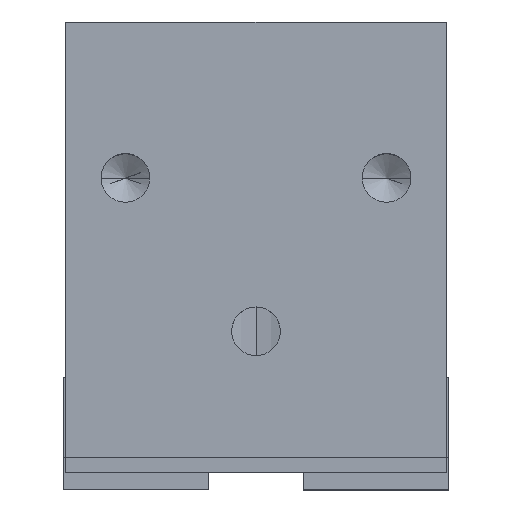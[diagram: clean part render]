
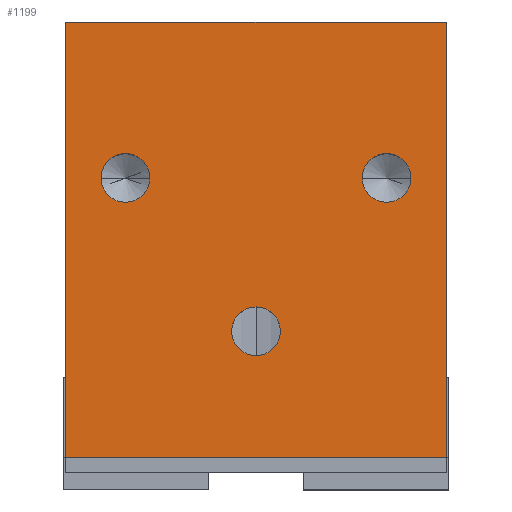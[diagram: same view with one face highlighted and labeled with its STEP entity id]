
A CAD part, top view. The second image highlights one B-rep face of the part: STEP entity #1199.
In plain terms, the highlighted planar face has unit normal (0, 0, 1).
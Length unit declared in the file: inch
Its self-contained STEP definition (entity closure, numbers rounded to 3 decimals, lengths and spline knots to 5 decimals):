
#35 = CARTESIAN_POINT ( 'NONE',  ( 0.31321, 0.125, 0.315 ) ) ;
#61 = ORIENTED_EDGE ( 'NONE', *, *, #959, .F. ) ;
#78 = EDGE_CURVE ( 'NONE', #418, #3062, #2052, .T. ) ;
#79 = DIRECTION ( 'NONE',  ( 0., 0., 1. ) ) ;
#118 = DIRECTION ( 'NONE',  ( 1., 0., 0. ) ) ;
#139 = VECTOR ( 'NONE', #2358, 39.37008 ) ;
#171 = CARTESIAN_POINT ( 'NONE',  ( -0.384, -0.44, 0.315 ) ) ;
#232 = EDGE_CURVE ( 'NONE', #2453, #2870, #2354, .T. ) ;
#301 = CARTESIAN_POINT ( 'NONE',  ( -0.21479, 0.125, 0.315 ) ) ;
#418 = VERTEX_POINT ( 'NONE', #35 ) ;
#445 = AXIS2_PLACEMENT_3D ( 'NONE', #905, #1126, #118 ) ;
#496 = DIRECTION ( 'NONE',  ( 1., 0., 0. ) ) ;
#521 = VECTOR ( 'NONE', #3047, 39.37008 ) ;
#548 = EDGE_CURVE ( 'NONE', #2838, #2942, #2824, .T. ) ;
#602 = DIRECTION ( 'NONE',  ( 0., -1., 0. ) ) ;
#639 = EDGE_CURVE ( 'NONE', #2129, #2909, #1273, .T. ) ;
#666 = DIRECTION ( 'NONE',  ( 1., 0., 0. ) ) ;
#672 = VERTEX_POINT ( 'NONE', #2798 ) ;
#686 = EDGE_CURVE ( 'NONE', #2221, #2838, #1848, .T. ) ;
#689 = AXIS2_PLACEMENT_3D ( 'NONE', #2828, #2091, #666 ) ;
#698 = AXIS2_PLACEMENT_3D ( 'NONE', #2704, #1221, #2940 ) ;
#728 = CIRCLE ( 'NONE', #1105, 0.04921 ) ;
#793 = CARTESIAN_POINT ( 'NONE',  ( 0., -0.185, 0.315 ) ) ;
#812 = EDGE_CURVE ( 'NONE', #2909, #2129, #728, .T. ) ;
#848 = FACE_BOUND ( 'NONE', #2228, .T. ) ;
#905 = CARTESIAN_POINT ( 'NONE',  ( -0.264, 0.125, 0.315 ) ) ;
#916 = EDGE_CURVE ( 'NONE', #672, #2942, #1723, .T. ) ;
#959 = EDGE_CURVE ( 'NONE', #2221, #672, #2788, .T. ) ;
#998 = PLANE ( 'NONE',  #1063 ) ;
#1006 = FACE_BOUND ( 'NONE', #1539, .T. ) ;
#1049 = DIRECTION ( 'NONE',  ( 1., 0., 0. ) ) ;
#1063 = AXIS2_PLACEMENT_3D ( 'NONE', #2733, #1483, #3225 ) ;
#1105 = AXIS2_PLACEMENT_3D ( 'NONE', #1607, #79, #1855 ) ;
#1126 = DIRECTION ( 'NONE',  ( 0., 0., 1. ) ) ;
#1199 = ADVANCED_FACE ( 'NONE', ( #848, #1006, #2744, #2048 ), #998, .F. ) ;
#1221 = DIRECTION ( 'NONE',  ( 0., 0., 1. ) ) ;
#1273 = CIRCLE ( 'NONE', #3278, 0.04921 ) ;
#1326 = CARTESIAN_POINT ( 'NONE',  ( -0.384, 0.44, 0.315 ) ) ;
#1398 = ORIENTED_EDGE ( 'NONE', *, *, #2827, .F. ) ;
#1427 = DIRECTION ( 'NONE',  ( 0., 0., 1. ) ) ;
#1458 = ORIENTED_EDGE ( 'NONE', *, *, #548, .T. ) ;
#1480 = CARTESIAN_POINT ( 'NONE',  ( -0.04921, -0.185, 0.315 ) ) ;
#1483 = DIRECTION ( 'NONE',  ( 0., 0., -1. ) ) ;
#1493 = VECTOR ( 'NONE', #496, 39.37008 ) ;
#1539 = EDGE_LOOP ( 'NONE', ( #2002, #2273 ) ) ;
#1607 = CARTESIAN_POINT ( 'NONE',  ( 0., -0.185, 0.315 ) ) ;
#1611 = CARTESIAN_POINT ( 'NONE',  ( -0.384, 0.44, 0.315 ) ) ;
#1669 = AXIS2_PLACEMENT_3D ( 'NONE', #2907, #1427, #3162 ) ;
#1699 = CARTESIAN_POINT ( 'NONE',  ( -0.31321, 0.125, 0.315 ) ) ;
#1723 = LINE ( 'NONE', #2055, #2970 ) ;
#1770 = CARTESIAN_POINT ( 'NONE',  ( -0.384, 0.44, 0.315 ) ) ;
#1848 = LINE ( 'NONE', #1326, #521 ) ;
#1855 = DIRECTION ( 'NONE',  ( 1., 0., 0. ) ) ;
#1932 = CIRCLE ( 'NONE', #1669, 0.04921 ) ;
#1973 = ORIENTED_EDGE ( 'NONE', *, *, #686, .T. ) ;
#2002 = ORIENTED_EDGE ( 'NONE', *, *, #232, .F. ) ;
#2048 = FACE_OUTER_BOUND ( 'NONE', #2990, .T. ) ;
#2052 = CIRCLE ( 'NONE', #689, 0.04921 ) ;
#2055 = CARTESIAN_POINT ( 'NONE',  ( 0.384, 0.44, 0.315 ) ) ;
#2091 = DIRECTION ( 'NONE',  ( 0., 0., 1. ) ) ;
#2129 = VERTEX_POINT ( 'NONE', #1480 ) ;
#2147 = ORIENTED_EDGE ( 'NONE', *, *, #812, .F. ) ;
#2193 = CARTESIAN_POINT ( 'NONE',  ( 0.04921, -0.185, 0.315 ) ) ;
#2200 = CARTESIAN_POINT ( 'NONE',  ( 0.384, -0.44, 0.315 ) ) ;
#2221 = VERTEX_POINT ( 'NONE', #1770 ) ;
#2228 = EDGE_LOOP ( 'NONE', ( #2147, #2810 ) ) ;
#2230 = ORIENTED_EDGE ( 'NONE', *, *, #916, .F. ) ;
#2249 = CARTESIAN_POINT ( 'NONE',  ( 0.21479, 0.125, 0.315 ) ) ;
#2273 = ORIENTED_EDGE ( 'NONE', *, *, #2730, .F. ) ;
#2354 = CIRCLE ( 'NONE', #445, 0.04921 ) ;
#2358 = DIRECTION ( 'NONE',  ( 1., 0., 0. ) ) ;
#2386 = CIRCLE ( 'NONE', #698, 0.04921 ) ;
#2453 = VERTEX_POINT ( 'NONE', #301 ) ;
#2498 = CARTESIAN_POINT ( 'NONE',  ( -0.384, -0.44, 0.315 ) ) ;
#2520 = ORIENTED_EDGE ( 'NONE', *, *, #78, .F. ) ;
#2537 = DIRECTION ( 'NONE',  ( 0., 0., 1. ) ) ;
#2704 = CARTESIAN_POINT ( 'NONE',  ( 0.264, 0.125, 0.315 ) ) ;
#2730 = EDGE_CURVE ( 'NONE', #2870, #2453, #1932, .T. ) ;
#2733 = CARTESIAN_POINT ( 'NONE',  ( -0.384, 0.44, 0.315 ) ) ;
#2744 = FACE_BOUND ( 'NONE', #3141, .T. ) ;
#2788 = LINE ( 'NONE', #1611, #139 ) ;
#2798 = CARTESIAN_POINT ( 'NONE',  ( 0.384, 0.44, 0.315 ) ) ;
#2810 = ORIENTED_EDGE ( 'NONE', *, *, #639, .F. ) ;
#2824 = LINE ( 'NONE', #2498, #1493 ) ;
#2827 = EDGE_CURVE ( 'NONE', #3062, #418, #2386, .T. ) ;
#2828 = CARTESIAN_POINT ( 'NONE',  ( 0.264, 0.125, 0.315 ) ) ;
#2838 = VERTEX_POINT ( 'NONE', #171 ) ;
#2870 = VERTEX_POINT ( 'NONE', #1699 ) ;
#2907 = CARTESIAN_POINT ( 'NONE',  ( -0.264, 0.125, 0.315 ) ) ;
#2909 = VERTEX_POINT ( 'NONE', #2193 ) ;
#2940 = DIRECTION ( 'NONE',  ( 1., 0., 0. ) ) ;
#2942 = VERTEX_POINT ( 'NONE', #2200 ) ;
#2970 = VECTOR ( 'NONE', #602, 39.37008 ) ;
#2990 = EDGE_LOOP ( 'NONE', ( #1458, #2230, #61, #1973 ) ) ;
#3047 = DIRECTION ( 'NONE',  ( 0., -1., 0. ) ) ;
#3062 = VERTEX_POINT ( 'NONE', #2249 ) ;
#3141 = EDGE_LOOP ( 'NONE', ( #2520, #1398 ) ) ;
#3162 = DIRECTION ( 'NONE',  ( 1., 0., 0. ) ) ;
#3225 = DIRECTION ( 'NONE',  ( -1., 0., 0. ) ) ;
#3278 = AXIS2_PLACEMENT_3D ( 'NONE', #793, #2537, #1049 ) ;
